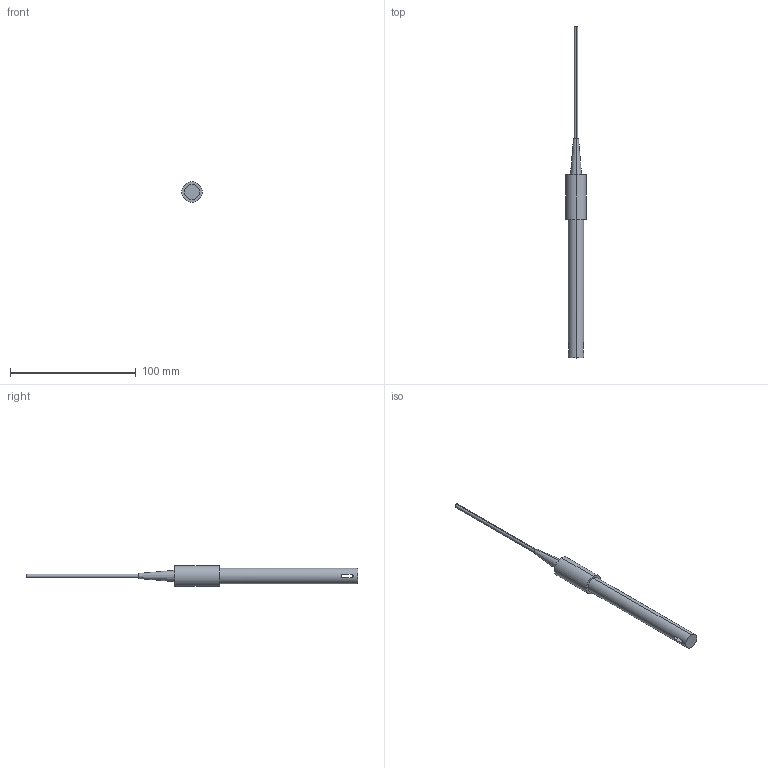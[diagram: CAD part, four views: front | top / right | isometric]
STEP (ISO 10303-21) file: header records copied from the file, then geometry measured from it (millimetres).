
FILE_DESCRIPTION (( 'STEP AP214' ), '1' );
FILE_NAME ('ENV-40-EC-K=1.STEP', '2021-02-16T23:41:33', ( '' ), ( '' ), 'SwSTEP 2.0', 'SolidWorks 2020', '' );
FILE_SCHEMA (( 'AUTOMOTIVE_DESIGN' ));
Length unit declared in the file: millimetre
Products named in the file (1): ENV-40-EC-K=1
Bounding box: 16.3 x 263.6 x 16.3 mm (x, y, z)
Volume: 21593.6 mm3; surface area: 8043.8 mm2
Topology: 1 solids, 1 shells, 17 faces, 36 edges, 24 vertices
Faces by surface type: cylinder 8, plane 7, cone 2
Entity records: 739 total; most frequent: CARTESIAN_POINT 178, DIRECTION 84, ORIENTED_EDGE 72, EDGE_CURVE 36, AXIS2_PLACEMENT_3D 34, VERTEX_POINT 24, EDGE_LOOP 22, FACE_OUTER_BOUND 17
